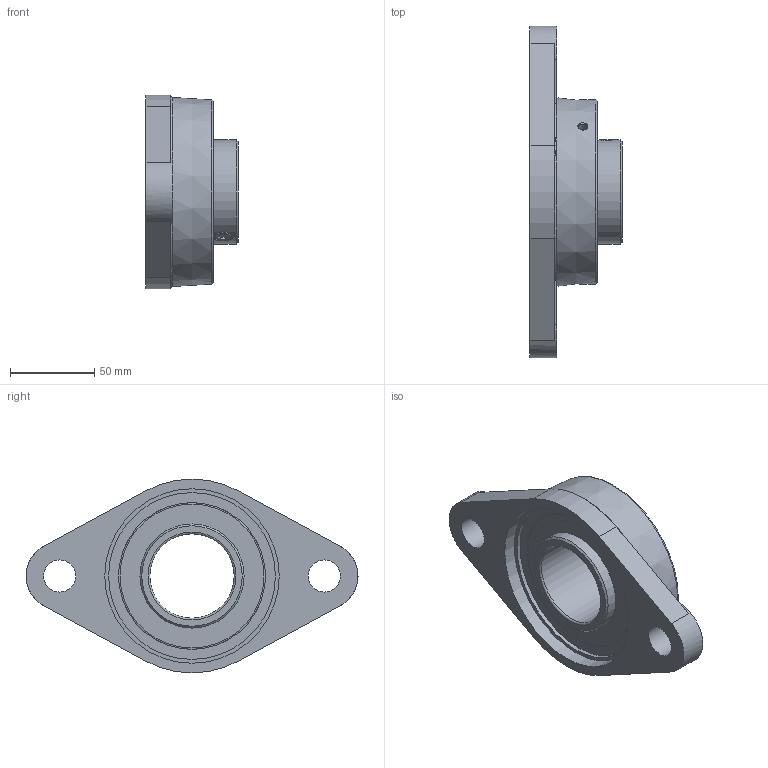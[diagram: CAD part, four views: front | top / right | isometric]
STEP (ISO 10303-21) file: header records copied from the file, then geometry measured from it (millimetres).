
FILE_DESCRIPTION (( 'STEP AP203' ), '1' );
FILE_NAME ('UCFL-210.STEP', '2019-03-08T12:12:30', ( '' ), ( '' ), 'SwSTEP 2.0', 'SolidWorks 2017', '' );
FILE_SCHEMA (( 'CONFIG_CONTROL_DESIGN' ));
Length unit declared in the file: millimetre
Products named in the file (1): UCFL-210
Bounding box: 54.6 x 197 x 115 mm (x, y, z)
Volume: 281055.1 mm3; surface area: 74759.3 mm2
Topology: 1 solids, 3 shells, 93 faces, 212 edges, 142 vertices
Faces by surface type: plane 43, cylinder 24, cone 10, torus 9, sphere 7
Full cylindrical faces by diameter (mm): 1.15 x4, 4.918 x1, 6 x1, 10 x2, 19 x2, 50 x1, 61.8 x4, 78.063 x2, 99 x1, 100 x1, 103.5 x1
Entity records: 2914 total; most frequent: CARTESIAN_POINT 981, DIRECTION 384, ORIENTED_EDGE 308, AXIS2_PLACEMENT_3D 160, EDGE_LOOP 159, EDGE_CURVE 154, VERTEX_POINT 121, FACE_OUTER_BOUND 120
